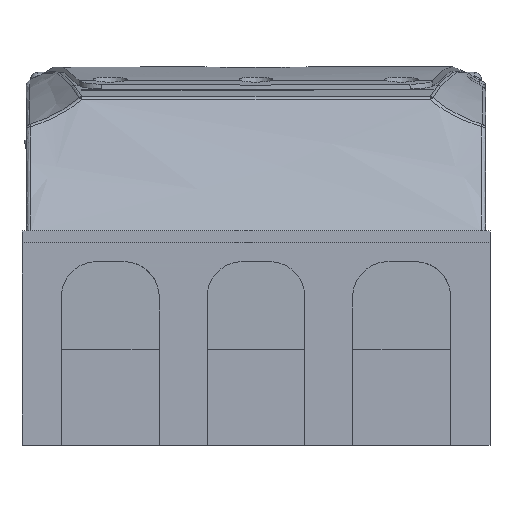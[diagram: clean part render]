
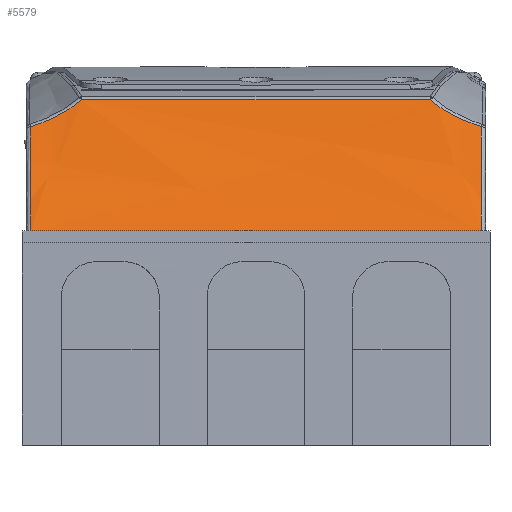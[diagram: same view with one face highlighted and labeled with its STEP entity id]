
A CAD part, left-side view. The second image highlights one B-rep face of the part: STEP entity #5579.
In plain terms, the highlighted face is a extrusion surface.
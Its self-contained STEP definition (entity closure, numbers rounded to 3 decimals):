
#3713=SURFACE_OF_LINEAR_EXTRUSION('',#4045,#15370);
#3999=(
BOUNDED_CURVE()
B_SPLINE_CURVE(3,(#21267,#21268,#21269,#21270),.UNSPECIFIED.,.F.,.F.)
B_SPLINE_CURVE_WITH_KNOTS((4,4),(0.,1.),.UNSPECIFIED.)
CURVE()
GEOMETRIC_REPRESENTATION_ITEM()
RATIONAL_B_SPLINE_CURVE((1.,0.943,0.943,1.))
REPRESENTATION_ITEM('')
);
#4006=(
BOUNDED_CURVE()
B_SPLINE_CURVE(3,(#26972,#26973,#26974,#26975),.UNSPECIFIED.,.F.,.F.)
B_SPLINE_CURVE_WITH_KNOTS((4,4),(0.,1.),.UNSPECIFIED.)
CURVE()
GEOMETRIC_REPRESENTATION_ITEM()
RATIONAL_B_SPLINE_CURVE((1.,0.943,0.943,1.))
REPRESENTATION_ITEM('')
);
#4045=ELLIPSE('',#16011,35.,12.5);
#4445=FACE_OUTER_BOUND('',#6576,.T.);
#5579=ADVANCED_FACE('',(#4445),#3713,.F.);
#6576=EDGE_LOOP('',(#8875,#8876,#8877,#8878,#8879,#8880));
#7545=B_SPLINE_CURVE_WITH_KNOTS('',3,(#26935,#26936,#26937,#26938,#26939,
#26940,#26941,#26942,#26943,#26944,#26945,#26946,#26947,#26948,#26949,#26950,
#26951),.UNSPECIFIED.,.F.,.F.,(4,2,2,2,2,1,2,2,4),(0.,0.25,0.375,0.438,
0.5,0.625,0.688,0.75,1.),.UNSPECIFIED.);
#7546=B_SPLINE_CURVE_WITH_KNOTS('',3,(#26955,#26956,#26957,#26958,#26959,
#26960,#26961,#26962,#26963,#26964,#26965,#26966,#26967,#26968,#26969,#26970),
 .UNSPECIFIED.,.F.,.F.,(4,2,2,2,2,2,2,4),(0.,0.125,0.188,
0.25,0.375,0.438,0.5,
1.),.UNSPECIFIED.);
#8875=ORIENTED_EDGE('',*,*,#13419,.T.);
#8876=ORIENTED_EDGE('',*,*,#13420,.T.);
#8877=ORIENTED_EDGE('',*,*,#13421,.T.);
#8878=ORIENTED_EDGE('',*,*,#13422,.T.);
#8879=ORIENTED_EDGE('',*,*,#13423,.F.);
#8880=ORIENTED_EDGE('',*,*,#12862,.T.);
#11667=VERTEX_POINT('',#21271);
#11668=VERTEX_POINT('',#21272);
#12083=VERTEX_POINT('',#26952);
#12084=VERTEX_POINT('',#26954);
#12085=VERTEX_POINT('',#26971);
#12086=VERTEX_POINT('',#26976);
#12862=EDGE_CURVE('',#11667,#11668,#3999,.T.);
#13419=EDGE_CURVE('',#11668,#12083,#7545,.T.);
#13420=EDGE_CURVE('',#12083,#12084,#14745,.T.);
#13421=EDGE_CURVE('',#12084,#12085,#7546,.T.);
#13422=EDGE_CURVE('',#12085,#12086,#4006,.T.);
#13423=EDGE_CURVE('',#11667,#12086,#14746,.T.);
#14745=LINE('',#26953,#15368);
#14746=LINE('',#26977,#15369);
#15368=VECTOR('',#17559,1.);
#15369=VECTOR('',#17560,1.);
#15370=VECTOR('',#17563,1.);
#16011=AXIS2_PLACEMENT_3D('',#26978,#17561,#17562);
#17559=DIRECTION('',(0.,1.,0.));
#17560=DIRECTION('',(0.,1.,0.));
#17561=DIRECTION('',(0.,-1.,0.));
#17562=DIRECTION('',(0.568,0.,0.823));
#17563=DIRECTION('',(0.,-1.,0.));
#21267=CARTESIAN_POINT('',(-175.043,33.,45.002));
#21268=CARTESIAN_POINT('',(-168.688,33.,52.049));
#21269=CARTESIAN_POINT('',(-163.206,33.,60.41));
#21270=CARTESIAN_POINT('',(-159.537,33.,68.653));
#21271=CARTESIAN_POINT('',(-175.043,33.,45.002));
#21272=CARTESIAN_POINT('',(-159.537,33.,68.653));
#26935=CARTESIAN_POINT('',(-159.537,33.,68.653));
#26936=CARTESIAN_POINT('',(-159.383,34.083,68.999));
#26937=CARTESIAN_POINT('',(-159.215,35.132,69.382));
#26938=CARTESIAN_POINT('',(-158.949,36.655,70.01));
#26939=CARTESIAN_POINT('',(-158.858,37.155,70.229));
#26940=CARTESIAN_POINT('',(-158.718,37.891,70.569));
#26941=CARTESIAN_POINT('',(-158.671,38.135,70.685));
#26942=CARTESIAN_POINT('',(-158.575,38.617,70.921));
#26943=CARTESIAN_POINT('',(-158.532,38.831,71.027));
#26944=CARTESIAN_POINT('',(-158.371,39.619,71.433));
#26945=CARTESIAN_POINT('',(-158.213,40.367,71.839));
#26946=CARTESIAN_POINT('',(-158.059,41.056,72.248));
#26947=CARTESIAN_POINT('',(-157.958,41.502,72.52));
#26948=CARTESIAN_POINT('',(-157.915,41.687,72.636));
#26949=CARTESIAN_POINT('',(-157.629,42.894,73.422));
#26950=CARTESIAN_POINT('',(-157.402,43.759,74.078));
#26951=CARTESIAN_POINT('',(-157.184,44.524,74.757));
#26952=CARTESIAN_POINT('',(-157.184,44.524,74.757));
#26953=CARTESIAN_POINT('',(-157.184,44.524,74.757));
#26954=CARTESIAN_POINT('',(-157.184,123.476,74.757));
#26955=CARTESIAN_POINT('',(-157.184,123.476,74.757));
#26956=CARTESIAN_POINT('',(-157.294,123.859,74.417));
#26957=CARTESIAN_POINT('',(-157.405,124.269,74.081));
#26958=CARTESIAN_POINT('',(-157.575,124.923,73.587));
#26959=CARTESIAN_POINT('',(-157.632,125.148,73.424));
#26960=CARTESIAN_POINT('',(-157.746,125.61,73.1));
#26961=CARTESIAN_POINT('',(-157.812,125.881,72.918));
#26962=CARTESIAN_POINT('',(-157.962,126.514,72.506));
#26963=CARTESIAN_POINT('',(-158.064,126.962,72.233));
#26964=CARTESIAN_POINT('',(-158.22,127.672,71.825));
#26965=CARTESIAN_POINT('',(-158.272,127.915,71.689));
#26966=CARTESIAN_POINT('',(-158.377,128.414,71.419));
#26967=CARTESIAN_POINT('',(-158.436,128.695,71.271));
#26968=CARTESIAN_POINT('',(-158.87,130.822,70.179));
#26969=CARTESIAN_POINT('',(-159.23,132.845,69.342));
#26970=CARTESIAN_POINT('',(-159.537,135.,68.653));
#26971=CARTESIAN_POINT('',(-159.537,135.,68.653));
#26972=CARTESIAN_POINT('',(-159.537,135.,68.653));
#26973=CARTESIAN_POINT('',(-163.206,135.,60.41));
#26974=CARTESIAN_POINT('',(-168.688,135.,52.049));
#26975=CARTESIAN_POINT('',(-175.043,135.,45.002));
#26976=CARTESIAN_POINT('',(-175.043,135.,45.002));
#26977=CARTESIAN_POINT('',(-175.043,33.,45.002));
#26978=CARTESIAN_POINT('',(-177.888,136.,61.55));
